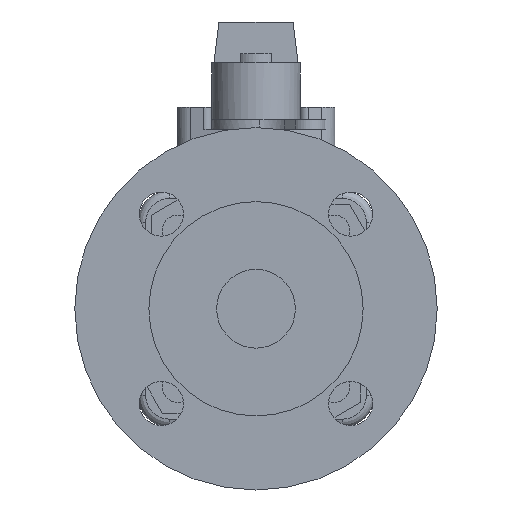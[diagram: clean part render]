
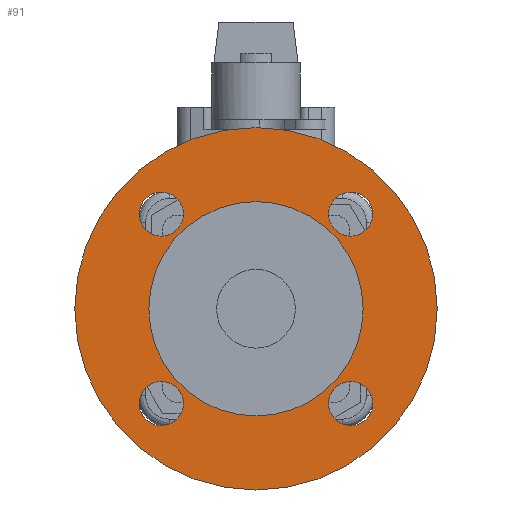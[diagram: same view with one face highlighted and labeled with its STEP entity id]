
A CAD part, left-side view. The second image highlights one B-rep face of the part: STEP entity #91.
In plain terms, the highlighted planar face has unit normal (-1, 0, 0).
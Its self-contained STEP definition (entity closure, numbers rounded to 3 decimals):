
#91=ADVANCED_FACE('',(#465,#466,#467,#468,#469,#470),#464,.T.);
#464=PLANE('',#2613);
#465=FACE_OUTER_BOUND('',#2614,.T.);
#466=FACE_BOUND('',#2615,.T.);
#467=FACE_BOUND('',#2616,.T.);
#468=FACE_BOUND('',#2617,.T.);
#469=FACE_BOUND('',#2618,.T.);
#470=FACE_BOUND('',#2619,.T.);
#2610=CARTESIAN_POINT('',(-85.9,-109.593,-125.));
#2611=DIRECTION('',(-1.,0.,0.));
#2612=DIRECTION('',(0.,0.,1.));
#2613=AXIS2_PLACEMENT_3D('',#2610,#2611,#2612);
#2614=EDGE_LOOP('',(#4188,#4189));
#2615=EDGE_LOOP('',(#4190,#4191));
#2616=EDGE_LOOP('',(#4192,#4193));
#2617=EDGE_LOOP('',(#4194,#4195));
#2618=EDGE_LOOP('',(#4196,#4197));
#2619=EDGE_LOOP('',(#4198,#4199));
#4188=ORIENTED_EDGE('',*,*,#5318,.T.);
#4189=ORIENTED_EDGE('',*,*,#5319,.T.);
#4190=ORIENTED_EDGE('',*,*,#5320,.F.);
#4191=ORIENTED_EDGE('',*,*,#5321,.F.);
#4192=ORIENTED_EDGE('',*,*,#5322,.F.);
#4193=ORIENTED_EDGE('',*,*,#5323,.F.);
#4194=ORIENTED_EDGE('',*,*,#5324,.F.);
#4195=ORIENTED_EDGE('',*,*,#5325,.F.);
#4196=ORIENTED_EDGE('',*,*,#5326,.F.);
#4197=ORIENTED_EDGE('',*,*,#5327,.F.);
#4198=ORIENTED_EDGE('',*,*,#5328,.F.);
#4199=ORIENTED_EDGE('',*,*,#5329,.F.);
#5318=EDGE_CURVE('',#6667,#6668,#6669,.T.);
#5319=EDGE_CURVE('',#6668,#6667,#6675,.T.);
#5320=EDGE_CURVE('',#6681,#6682,#6683,.T.);
#5321=EDGE_CURVE('',#6682,#6681,#6689,.T.);
#5322=EDGE_CURVE('',#6695,#6696,#6697,.T.);
#5323=EDGE_CURVE('',#6696,#6695,#6703,.T.);
#5324=EDGE_CURVE('',#6709,#6710,#6711,.T.);
#5325=EDGE_CURVE('',#6710,#6709,#6717,.T.);
#5326=EDGE_CURVE('',#6723,#6724,#6725,.T.);
#5327=EDGE_CURVE('',#6724,#6723,#6731,.T.);
#5328=EDGE_CURVE('',#6737,#6738,#6739,.T.);
#5329=EDGE_CURVE('',#6738,#6737,#6745,.T.);
#6667=VERTEX_POINT('',#10137);
#6668=VERTEX_POINT('',#10138);
#6669=CIRCLE('',#10142,57.5);
#6675=CIRCLE('',#10146,57.5);
#6681=VERTEX_POINT('',#10147);
#6682=VERTEX_POINT('',#10148);
#6683=CIRCLE('',#10152,7.);
#6689=CIRCLE('',#10156,7.);
#6695=VERTEX_POINT('',#10157);
#6696=VERTEX_POINT('',#10158);
#6697=CIRCLE('',#10162,7.);
#6703=CIRCLE('',#10166,7.);
#6709=VERTEX_POINT('',#10167);
#6710=VERTEX_POINT('',#10168);
#6711=CIRCLE('',#10172,7.);
#6717=CIRCLE('',#10176,7.);
#6723=VERTEX_POINT('',#10177);
#6724=VERTEX_POINT('',#10178);
#6725=CIRCLE('',#10182,7.);
#6731=CIRCLE('',#10186,7.);
#6737=VERTEX_POINT('',#10187);
#6738=VERTEX_POINT('',#10188);
#6739=CIRCLE('',#10192,34.);
#6745=CIRCLE('',#10196,34.);
#10137=CARTESIAN_POINT('',(-85.9,0.,57.5));
#10138=CARTESIAN_POINT('',(-85.9,0.,-57.5));
#10139=CARTESIAN_POINT('',(-85.9,0.,0.));
#10140=DIRECTION('',(-1.,0.,0.));
#10141=DIRECTION('',(0.,0.,1.));
#10142=AXIS2_PLACEMENT_3D('',#10139,#10140,#10141);
#10143=CARTESIAN_POINT('',(-85.9,0.,0.));
#10144=DIRECTION('',(-1.,0.,0.));
#10145=DIRECTION('',(0.,0.,1.));
#10146=AXIS2_PLACEMENT_3D('',#10143,#10144,#10145);
#10147=CARTESIAN_POINT('',(-85.9,30.052,-23.052));
#10148=CARTESIAN_POINT('',(-85.9,30.052,-37.052));
#10149=CARTESIAN_POINT('',(-85.9,30.052,-30.052));
#10150=DIRECTION('',(-1.,0.,0.));
#10151=DIRECTION('',(0.,0.,-1.));
#10152=AXIS2_PLACEMENT_3D('',#10149,#10150,#10151);
#10153=CARTESIAN_POINT('',(-85.9,30.052,-30.052));
#10154=DIRECTION('',(-1.,0.,0.));
#10155=DIRECTION('',(0.,0.,-1.));
#10156=AXIS2_PLACEMENT_3D('',#10153,#10154,#10155);
#10157=CARTESIAN_POINT('',(-85.9,-30.052,-37.052));
#10158=CARTESIAN_POINT('',(-85.9,-30.052,-23.052));
#10159=CARTESIAN_POINT('',(-85.9,-30.052,-30.052));
#10160=DIRECTION('',(-1.,0.,0.));
#10161=DIRECTION('',(0.,0.,1.));
#10162=AXIS2_PLACEMENT_3D('',#10159,#10160,#10161);
#10163=CARTESIAN_POINT('',(-85.9,-30.052,-30.052));
#10164=DIRECTION('',(-1.,0.,0.));
#10165=DIRECTION('',(0.,0.,1.));
#10166=AXIS2_PLACEMENT_3D('',#10163,#10164,#10165);
#10167=CARTESIAN_POINT('',(-85.9,-30.052,37.052));
#10168=CARTESIAN_POINT('',(-85.9,-30.052,23.052));
#10169=CARTESIAN_POINT('',(-85.9,-30.052,30.052));
#10170=DIRECTION('',(-1.,0.,0.));
#10171=DIRECTION('',(0.,0.,-1.));
#10172=AXIS2_PLACEMENT_3D('',#10169,#10170,#10171);
#10173=CARTESIAN_POINT('',(-85.9,-30.052,30.052));
#10174=DIRECTION('',(-1.,0.,0.));
#10175=DIRECTION('',(0.,0.,-1.));
#10176=AXIS2_PLACEMENT_3D('',#10173,#10174,#10175);
#10177=CARTESIAN_POINT('',(-85.9,30.052,23.052));
#10178=CARTESIAN_POINT('',(-85.9,30.052,37.052));
#10179=CARTESIAN_POINT('',(-85.9,30.052,30.052));
#10180=DIRECTION('',(-1.,0.,0.));
#10181=DIRECTION('',(0.,0.,1.));
#10182=AXIS2_PLACEMENT_3D('',#10179,#10180,#10181);
#10183=CARTESIAN_POINT('',(-85.9,30.052,30.052));
#10184=DIRECTION('',(-1.,0.,0.));
#10185=DIRECTION('',(0.,0.,1.));
#10186=AXIS2_PLACEMENT_3D('',#10183,#10184,#10185);
#10187=CARTESIAN_POINT('',(-85.9,0.,-34.));
#10188=CARTESIAN_POINT('',(-85.9,0.,34.));
#10189=CARTESIAN_POINT('',(-85.9,0.,0.));
#10190=DIRECTION('',(-1.,0.,0.));
#10191=DIRECTION('',(0.,0.,1.));
#10192=AXIS2_PLACEMENT_3D('',#10189,#10190,#10191);
#10193=CARTESIAN_POINT('',(-85.9,0.,0.));
#10194=DIRECTION('',(-1.,0.,0.));
#10195=DIRECTION('',(0.,0.,1.));
#10196=AXIS2_PLACEMENT_3D('',#10193,#10194,#10195);
